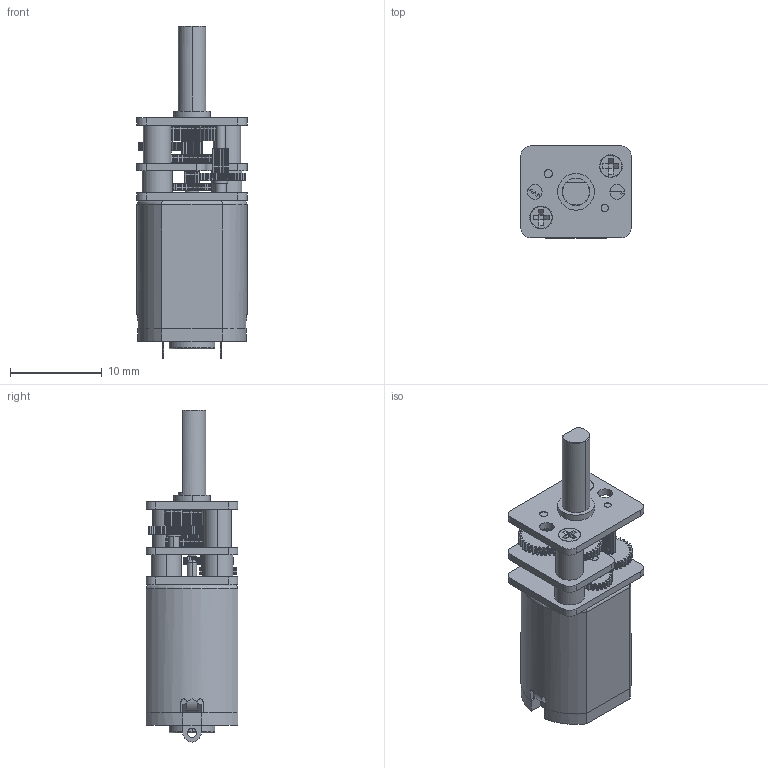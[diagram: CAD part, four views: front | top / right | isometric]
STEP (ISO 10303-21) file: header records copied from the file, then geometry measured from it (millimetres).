
FILE_DESCRIPTION (( 'STEP AP214' ), '1' );
FILE_NAME ('mmgm-carbon-brushes-step.STEP', '2024-04-20T02:52:48', ( '' ), ( '' ), 'SwSTEP 2.0', 'SolidWorks 2023', '' );
FILE_SCHEMA (( 'AUTOMOTIVE_DESIGN' ));
Length unit declared in the file: inch
Products named in the file (1): mmgm-carbon-brushes-step
Bounding box: 12 x 10 x 36.2 mm (x, y, z)
Volume: 2150.5 mm3; surface area: 2201.4 mm2
Topology: 1 solids, 3 shells, 2278 faces, 6850 edges, 4638 vertices
Faces by surface type: cylinder 1230, plane 730, bspline 301, torus 11, cone 6
Entity records: 123407 total; most frequent: CARTESIAN_POINT 40693, ORIENTED_EDGE 13700, DIRECTION 7322, EDGE_CURVE 6850, VERTEX_POINT 4638, B_SPLINE_CURVE_WITH_KNOTS 4407, AXIS2_PLACEMENT_3D 2913, EDGE_LOOP 2380
